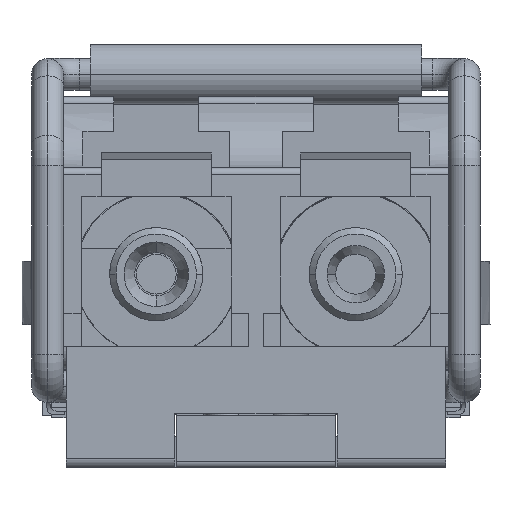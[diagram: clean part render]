
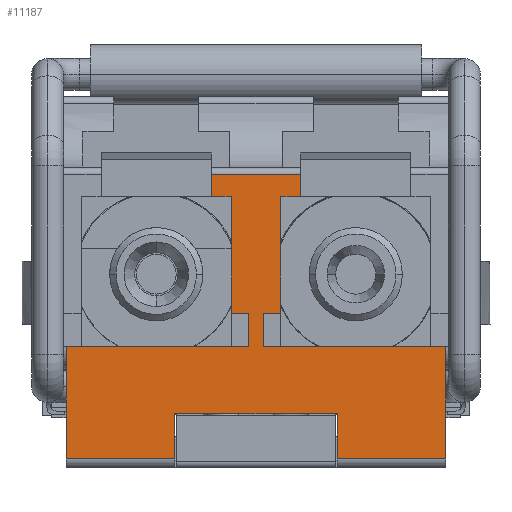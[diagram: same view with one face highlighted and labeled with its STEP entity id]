
A CAD part, front view. The second image highlights one B-rep face of the part: STEP entity #11187.
In plain terms, the highlighted planar face has unit normal (0, -1, 0).
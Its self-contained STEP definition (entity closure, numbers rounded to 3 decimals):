
#1336=DIRECTION('',(0.,0.,-1.));
#1337=VECTOR('',#1336,1.4);
#1338=CARTESIAN_POINT('',(2.55,0.,-0.23));
#1339=LINE('',#1338,#1337);
#1371=DIRECTION('',(1.,0.,0.));
#1372=VECTOR('',#1371,5.725);
#1373=CARTESIAN_POINT('',(0.225,0.,1.87));
#1374=LINE('',#1373,#1372);
#1375=DIRECTION('',(0.,0.,-1.));
#1376=VECTOR('',#1375,3.5);
#1377=CARTESIAN_POINT('',(5.95,0.,1.87));
#1378=LINE('',#1377,#1376);
#1379=DIRECTION('',(-1.,0.,0.));
#1380=VECTOR('',#1379,5.1);
#1381=CARTESIAN_POINT('',(2.55,0.,-0.23));
#1382=LINE('',#1381,#1380);
#1383=DIRECTION('',(0.,0.,-1.));
#1384=VECTOR('',#1383,1.4);
#1385=CARTESIAN_POINT('',(-2.55,0.,-0.23));
#1386=LINE('',#1385,#1384);
#1387=DIRECTION('',(0.,0.,1.));
#1388=VECTOR('',#1387,3.5);
#1389=CARTESIAN_POINT('',(-5.95,0.,-1.63));
#1390=LINE('',#1389,#1388);
#1391=DIRECTION('',(1.,0.,0.));
#1392=VECTOR('',#1391,5.725);
#1393=CARTESIAN_POINT('',(-5.95,0.,1.87));
#1394=LINE('',#1393,#1392);
#1395=DIRECTION('',(0.,0.,1.));
#1396=VECTOR('',#1395,1.05);
#1397=CARTESIAN_POINT('',(-0.225,0.,1.87));
#1398=LINE('',#1397,#1396);
#1399=DIRECTION('',(-1.,0.,0.));
#1400=VECTOR('',#1399,0.55);
#1401=CARTESIAN_POINT('',(-0.225,0.,2.92));
#1402=LINE('',#1401,#1400);
#1403=DIRECTION('',(0.,0.,1.));
#1404=VECTOR('',#1403,0.7);
#1405=CARTESIAN_POINT('',(-1.4,0.,6.57));
#1406=LINE('',#1405,#1404);
#1411=DIRECTION('',(-1.,0.,0.));
#1412=VECTOR('',#1411,2.8);
#1413=CARTESIAN_POINT('',(1.4,0.,7.27));
#1414=LINE('',#1413,#1412);
#1468=DIRECTION('',(1.,0.,0.));
#1469=VECTOR('',#1468,0.625);
#1470=CARTESIAN_POINT('',(-1.4,0.,6.57));
#1471=LINE('',#1470,#1469);
#1472=DIRECTION('',(0.,0.,-1.));
#1473=VECTOR('',#1472,3.65);
#1474=CARTESIAN_POINT('',(-0.775,0.,6.57));
#1475=LINE('',#1474,#1473);
#1600=DIRECTION('',(0.,0.,1.));
#1601=VECTOR('',#1600,3.65);
#1602=CARTESIAN_POINT('',(0.775,0.,2.92));
#1603=LINE('',#1602,#1601);
#1624=DIRECTION('',(1.,0.,0.));
#1625=VECTOR('',#1624,0.625);
#1626=CARTESIAN_POINT('',(0.775,0.,6.57));
#1627=LINE('',#1626,#1625);
#2956=DIRECTION('',(0.,0.,1.));
#2957=VECTOR('',#2956,0.7);
#2958=CARTESIAN_POINT('',(1.4,0.,6.57));
#2959=LINE('',#2958,#2957);
#3668=DIRECTION('',(1.,0.,0.));
#3669=VECTOR('',#3668,3.4);
#3670=CARTESIAN_POINT('',(-5.95,0.,-1.63));
#3671=LINE('',#3670,#3669);
#6481=DIRECTION('',(1.,0.,0.));
#6482=VECTOR('',#6481,3.4);
#6483=CARTESIAN_POINT('',(2.55,0.,-1.63));
#6484=LINE('',#6483,#6482);
#6536=DIRECTION('',(0.,0.,1.));
#6537=VECTOR('',#6536,1.05);
#6538=CARTESIAN_POINT('',(0.225,0.,1.87));
#6539=LINE('',#6538,#6537);
#6544=DIRECTION('',(1.,0.,0.));
#6545=VECTOR('',#6544,0.55);
#6546=CARTESIAN_POINT('',(0.225,0.,2.92));
#6547=LINE('',#6546,#6545);
#8340=CARTESIAN_POINT('',(-0.775,0.,6.57));
#8342=VERTEX_POINT('',#8340);
#8354=CARTESIAN_POINT('',(-1.4,0.,6.57));
#8355=VERTEX_POINT('',#8354);
#8358=CARTESIAN_POINT('',(-0.775,0.,2.92));
#8359=VERTEX_POINT('',#8358);
#8364=CARTESIAN_POINT('',(-0.225,0.,1.87));
#8365=VERTEX_POINT('',#8364);
#8366=CARTESIAN_POINT('',(-5.95,0.,1.87));
#8367=VERTEX_POINT('',#8366);
#8400=CARTESIAN_POINT('',(1.4,0.,7.27));
#8401=CARTESIAN_POINT('',(-1.4,0.,7.27));
#8402=VERTEX_POINT('',#8400);
#8403=VERTEX_POINT('',#8401);
#8404=CARTESIAN_POINT('',(1.4,0.,6.57));
#8405=VERTEX_POINT('',#8404);
#8406=CARTESIAN_POINT('',(0.775,0.,6.57));
#8407=VERTEX_POINT('',#8406);
#8408=CARTESIAN_POINT('',(0.775,0.,2.92));
#8409=VERTEX_POINT('',#8408);
#8410=CARTESIAN_POINT('',(0.225,0.,2.92));
#8411=VERTEX_POINT('',#8410);
#8412=CARTESIAN_POINT('',(0.225,0.,1.87));
#8413=VERTEX_POINT('',#8412);
#8414=CARTESIAN_POINT('',(5.95,0.,1.87));
#8415=VERTEX_POINT('',#8414);
#8416=CARTESIAN_POINT('',(5.95,0.,-1.63));
#8417=VERTEX_POINT('',#8416);
#8418=CARTESIAN_POINT('',(2.55,0.,-1.63));
#8419=VERTEX_POINT('',#8418);
#8420=CARTESIAN_POINT('',(2.55,0.,-0.23));
#8421=VERTEX_POINT('',#8420);
#8422=CARTESIAN_POINT('',(-2.55,0.,-0.23));
#8423=VERTEX_POINT('',#8422);
#8424=CARTESIAN_POINT('',(-2.55,0.,-1.63));
#8425=VERTEX_POINT('',#8424);
#8426=CARTESIAN_POINT('',(-5.95,0.,-1.63));
#8427=VERTEX_POINT('',#8426);
#8428=CARTESIAN_POINT('',(-0.225,0.,2.92));
#8429=VERTEX_POINT('',#8428);
#11142=CARTESIAN_POINT('',(0.,0.,0.));
#11143=DIRECTION('',(0.,-1.,0.));
#11144=DIRECTION('',(1.,0.,0.));
#11145=AXIS2_PLACEMENT_3D('',#11142,#11143,#11144);
#11146=PLANE('',#11145);
#11148=ORIENTED_EDGE('',*,*,#11147,.F.);
#11150=ORIENTED_EDGE('',*,*,#11149,.F.);
#11152=ORIENTED_EDGE('',*,*,#11151,.F.);
#11154=ORIENTED_EDGE('',*,*,#11153,.F.);
#11156=ORIENTED_EDGE('',*,*,#11155,.F.);
#11158=ORIENTED_EDGE('',*,*,#11157,.F.);
#11160=ORIENTED_EDGE('',*,*,#11159,.T.);
#11162=ORIENTED_EDGE('',*,*,#11161,.T.);
#11164=ORIENTED_EDGE('',*,*,#11163,.F.);
#11165=ORIENTED_EDGE('',*,*,#11101,.F.);
#11166=ORIENTED_EDGE('',*,*,#11133,.T.);
#11168=ORIENTED_EDGE('',*,*,#11167,.T.);
#11170=ORIENTED_EDGE('',*,*,#11169,.F.);
#11172=ORIENTED_EDGE('',*,*,#11171,.T.);
#11174=ORIENTED_EDGE('',*,*,#11173,.T.);
#11176=ORIENTED_EDGE('',*,*,#11175,.T.);
#11178=ORIENTED_EDGE('',*,*,#11177,.T.);
#11180=ORIENTED_EDGE('',*,*,#11179,.F.);
#11182=ORIENTED_EDGE('',*,*,#11181,.F.);
#11184=ORIENTED_EDGE('',*,*,#11183,.T.);
#11185=EDGE_LOOP('',(#11148,#11150,#11152,#11154,#11156,#11158,#11160,#11162,
#11164,#11165,#11166,#11168,#11170,#11172,#11174,#11176,#11178,#11180,#11182,
#11184));
#11186=FACE_OUTER_BOUND('',#11185,.F.);
#11187=ADVANCED_FACE('',(#11186),#11146,.T.);
#11101=EDGE_CURVE('',#8421,#8419,#1339,.T.);
#11133=EDGE_CURVE('',#8421,#8423,#1382,.T.);
#11147=EDGE_CURVE('',#8402,#8403,#1414,.T.);
#11149=EDGE_CURVE('',#8405,#8402,#2959,.T.);
#11151=EDGE_CURVE('',#8407,#8405,#1627,.T.);
#11153=EDGE_CURVE('',#8409,#8407,#1603,.T.);
#11155=EDGE_CURVE('',#8411,#8409,#6547,.T.);
#11157=EDGE_CURVE('',#8413,#8411,#6539,.T.);
#11159=EDGE_CURVE('',#8413,#8415,#1374,.T.);
#11161=EDGE_CURVE('',#8415,#8417,#1378,.T.);
#11163=EDGE_CURVE('',#8419,#8417,#6484,.T.);
#11167=EDGE_CURVE('',#8423,#8425,#1386,.T.);
#11169=EDGE_CURVE('',#8427,#8425,#3671,.T.);
#11171=EDGE_CURVE('',#8427,#8367,#1390,.T.);
#11173=EDGE_CURVE('',#8367,#8365,#1394,.T.);
#11175=EDGE_CURVE('',#8365,#8429,#1398,.T.);
#11177=EDGE_CURVE('',#8429,#8359,#1402,.T.);
#11179=EDGE_CURVE('',#8342,#8359,#1475,.T.);
#11181=EDGE_CURVE('',#8355,#8342,#1471,.T.);
#11183=EDGE_CURVE('',#8355,#8403,#1406,.T.);
